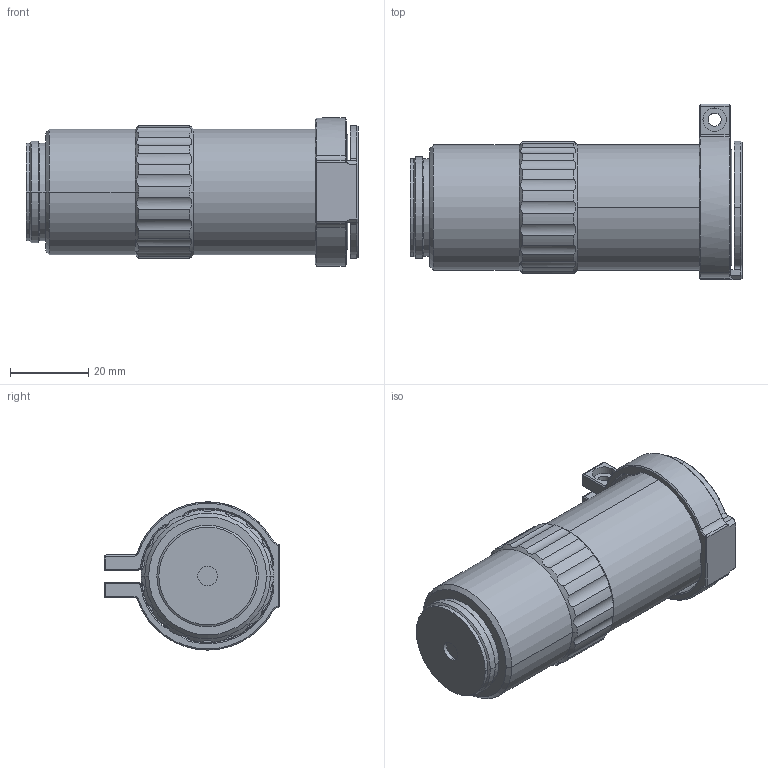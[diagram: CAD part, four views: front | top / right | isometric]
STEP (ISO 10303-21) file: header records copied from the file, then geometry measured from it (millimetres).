
FILE_DESCRIPTION (( 'STEP AP214' ), '1' );
FILE_NAME ('昜噩樓厥.STEP', '2026-07-15T05:59:16', ( '' ), ( '' ), 'SwSTEP 2.0', 'SolidWorks 2024', '' );
FILE_SCHEMA (( 'AUTOMOTIVE_DESIGN' ));
Length unit declared in the file: millimetre
Products named in the file (6): lcdplanaponir50x-t0.7_378-829-17.stp; 物镜加持; 摄像头物镜加持件.step; 镜片; 镜片1mm; 3D_LCDPlanApoNIR50×_378-829-17.stp
Assembly tree (4 placements, depth 3):
  物镜加持
    3D_LCDPlanApoNIR50×_378-829-17.stp
      lcdplanaponir50x-t0.7_378-829-17.stp
    摄像头物镜加持件.step
    镜片1mm
  镜片
Bounding box: 85.1 x 45.05 x 38 mm (x, y, z)
Volume: 70061 mm3; surface area: 15015.5 mm2
Topology: 3 solids, 3 shells, 223 faces, 537 edges, 326 vertices
Faces by surface type: cylinder 98, cone 77, plane 46, torus 2
Entity records: 9742 total; most frequent: CARTESIAN_POINT 4297, DIRECTION 1193, ORIENTED_EDGE 1074, EDGE_CURVE 537, AXIS2_PLACEMENT_3D 473, VERTEX_POINT 326, VECTOR 247, LINE 247
